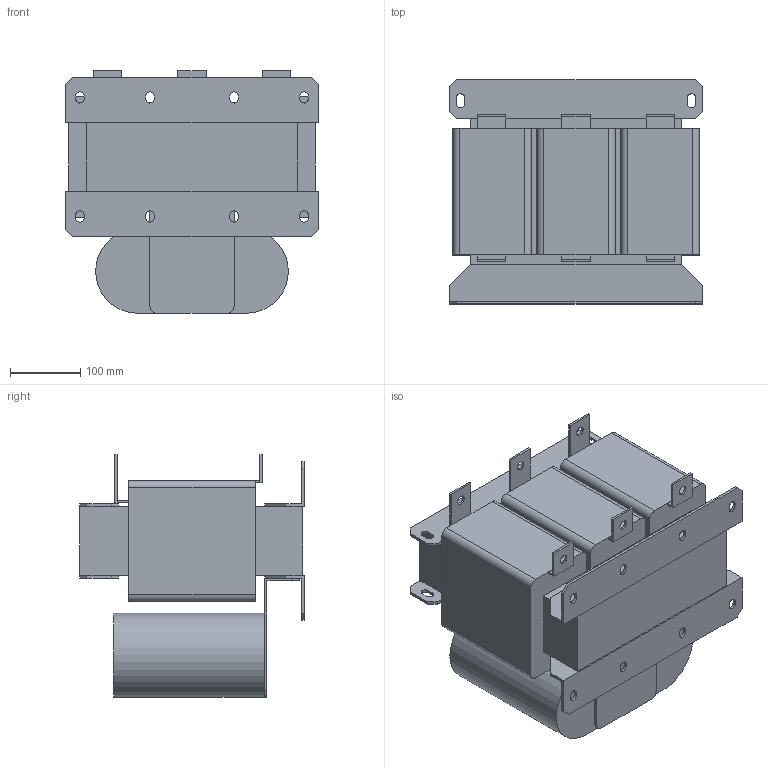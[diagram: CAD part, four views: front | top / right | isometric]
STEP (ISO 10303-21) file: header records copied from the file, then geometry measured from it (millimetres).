
FILE_DESCRIPTION(/* description */ (''),/* implementation_level */ '2;1');
FILE_NAME(/* name */ 'Sin-T4-260.stp',/* time_stamp */ '2025-03-10T15:31:44+04:00',/* author */ ('Лео'),/* organization */ (''),/* preprocessor_version */ 'ST-DEVELOPER v19.2',/* originating_system */ 'Autodesk Inventor 2024',/* authorisation */ '');
FILE_SCHEMA (('AUTOMOTIVE_DESIGN { 1 0 10303 214 3 1 1 }'));
Length unit declared in the file: millimetre
Products named in the file (1): Sin-T4-004
Bounding box: 360 x 320 x 346 mm (x, y, z)
Volume: 21466845.5 mm3; surface area: 1191059.6 mm2
Topology: 23 solids, 23 shells, 230 faces, 552 edges, 368 vertices
Faces by surface type: plane 182, cylinder 48
Full cylindrical faces by diameter (mm): 13 x6
Entity records: 6725 total; most frequent: CARTESIAN_POINT 1151, DIRECTION 1110, ORIENTED_EDGE 1104, EDGE_CURVE 552, LINE 456, VECTOR 456, VERTEX_POINT 368, AXIS2_PLACEMENT_3D 327
